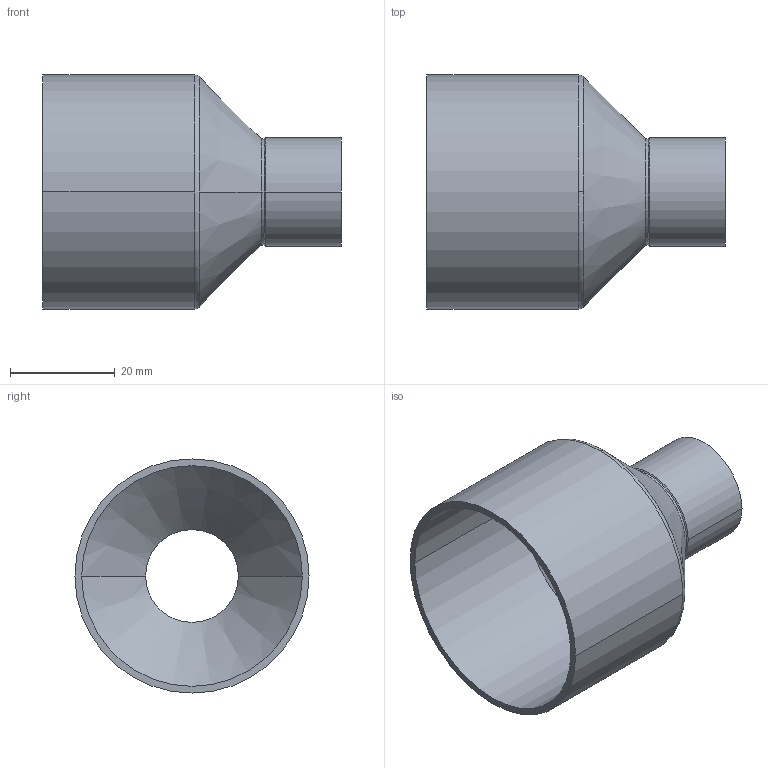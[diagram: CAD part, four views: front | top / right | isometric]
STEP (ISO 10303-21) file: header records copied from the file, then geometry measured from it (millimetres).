
FILE_DESCRIPTION((''),'2;1');
FILE_NAME('G:\Technics\CAD\Bauteile\Serie 15240\152404218.stp','2005-10-21T12:51:13',('boden'),(''),'Autodesk Inventor 8','Autodesk Inventor 8','');
FILE_SCHEMA(('AUTOMOTIVE_DESIGN { 1 0 10303 214 1 1 1 1 }'));
Length unit declared in the file: millimetre
Products named in the file (1): 152404218
Bounding box: 57 x 44.75 x 44.75 mm (x, y, z)
Volume: 8627.2 mm3; surface area: 13529.2 mm2
Topology: 1 solids, 1 shells, 24 faces, 52 edges, 30 vertices
Faces by surface type: cylinder 12, cone 8, torus 2, plane 2
Entity records: 683 total; most frequent: DIRECTION 134, CARTESIAN_POINT 107, ORIENTED_EDGE 104, AXIS2_PLACEMENT_3D 57, EDGE_CURVE 52, CIRCLE 32, VERTEX_POINT 30, EDGE_LOOP 26
